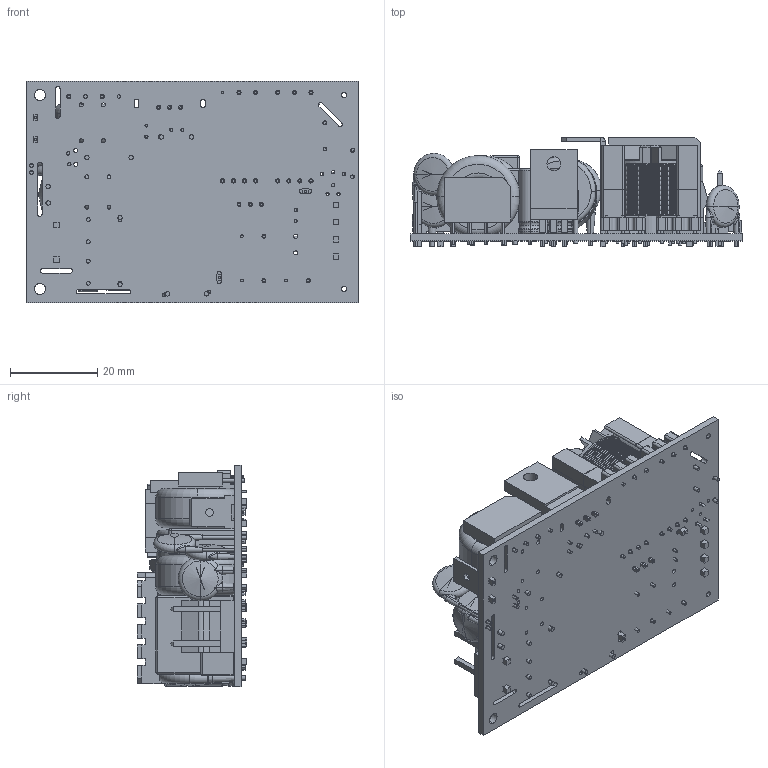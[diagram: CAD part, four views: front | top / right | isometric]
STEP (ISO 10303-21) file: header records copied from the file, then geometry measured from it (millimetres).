
FILE_DESCRIPTION (( 'STEP AP214' ), '1' );
FILE_NAME ('ECS45-5V-SINGLE-OUTPUT.STEP', '2010-06-29T18:09:32', ( 'ALL' ), ( 'XP Power' ), 'SwSTEP 2.0', 'SolidWorks 2010', '' );
FILE_SCHEMA (( 'AUTOMOTIVE_DESIGN' ));
Length unit declared in the file: inch
Products named in the file (33): Capacitor Disc_0.550 D_0.350" C; Capacitor Disc_0.300 D_0.350C; Connector QD_.250 Tab; 10008933C0; ECS45-5V-SINGLE-OUTPUT; Assy_HskRec_ECS45_5V_A0; Conn_MLX_KK156_Hdr_03P; Conn_MLX_KK156_Hdr_04P; SCREW-PPH_M3.0X06; TO220_3P_01; 1000893401 (Heatsink Rect); Fuse Mini Rect_01; Nut_Hex Machine (Metric)_Nut H,M3 ; Washer_Split Lock_4_reg; ECM-RECTIFIER; Capacitor Elec_06mm D_15mm; Inductor Toroid_8.0mm OD_3.5mm Width; Capacitor Elec_16mm D_H2A_32mm; Mov_0.350 D_A1_0.300" C; Capacitor Film_18x07mm_15 LS_18mm H; Inductor Toroid_19.0mm OD_10mm Width; Pot_TOCOS_G4C_TA; Capacitor Film_13x06mm_10 LS_15mm; TO220_3P_FULL_01; Capacitor Elec_10mm D_16mm; Capacitor Elec_05mm D_15mm; PQ20-20; WINDING; 10010385a0; ECS45-XFORMER
Assembly tree (38 placements, depth 3):
  ECS45-5V-SINGLE-OUTPUT
    Capacitor Disc_0.300 D_0.350C
    Capacitor Elec_05mm D_15mm  x2
    Inductor Toroid_19.0mm OD_10mm Width  x2
    Connector QD_.250 Tab
    ECS45-XFORMER
      PQ20-20  x2
      WINDING
      10010385a0
    Capacitor Elec_10mm D_16mm  x3
    TO220_3P_FULL_01
    ECM-RECTIFIER
    Fuse Mini Rect_01  x2
    Capacitor Film_13x06mm_10 LS_15mm
    Assy_HskRec_ECS45_5V_A0
      Washer_Split Lock_4_reg
      SCREW-PPH_M3.0X06
      1000893401 (Heatsink Rect)
      Nut_Hex Machine (Metric)_Nut H,M3 
      TO220_3P_01
    Mov_0.350 D_A1_0.300" C
    Capacitor Elec_06mm D_15mm
    Inductor Toroid_8.0mm OD_3.5mm Width
    Capacitor Disc_0.300 D_0.350C
    Capacitor Disc_0.550 D_0.350" C
    Capacitor Disc_0.300 D_0.350C
    Conn_MLX_KK156_Hdr_04P
    Pot_TOCOS_G4C_TA
    Capacitor Film_18x07mm_15 LS_18mm H
    Capacitor Elec_16mm D_H2A_32mm
    Capacitor Disc_0.300 D_0.350C
    10008933C0
    Conn_MLX_KK156_Hdr_03P
Bounding box: 76.2 x 25.08 x 50.8 mm (x, y, z)
Volume: 37601.1 mm3; surface area: 33876.1 mm2
Topology: 36 solids, 45 shells, 1773 faces, 4220 edges, 2617 vertices
Faces by surface type: plane 746, cylinder 629, torus 254, cone 98, sphere 26, bspline 20
Entity records: 67042 total; most frequent: CARTESIAN_POINT 14888, DIRECTION 8392, ORIENTED_EDGE 7508, EDGE_CURVE 3754, AXIS2_PLACEMENT_3D 3191, VERTEX_POINT 2373, VECTOR 2010, LINE 2010
